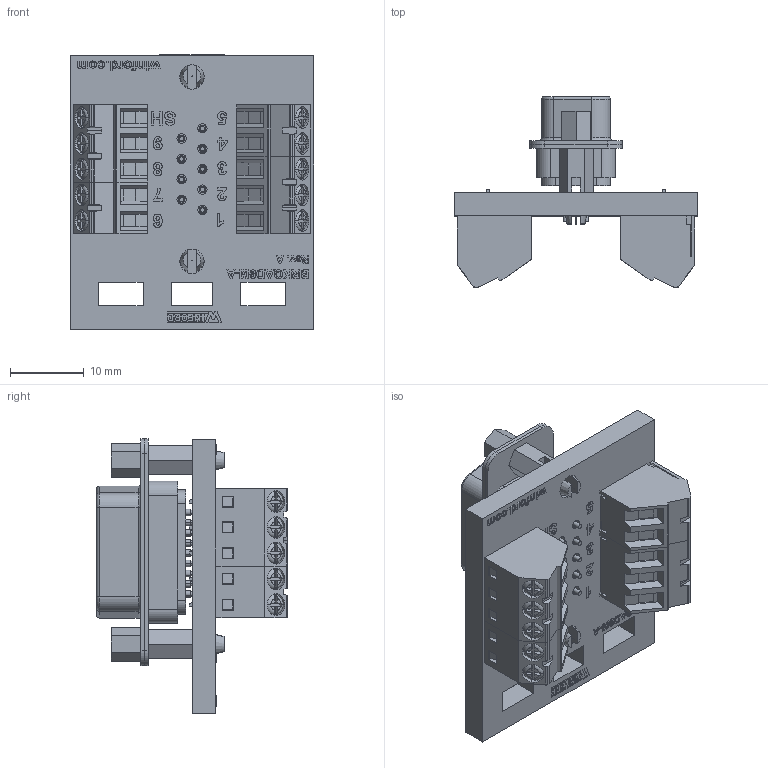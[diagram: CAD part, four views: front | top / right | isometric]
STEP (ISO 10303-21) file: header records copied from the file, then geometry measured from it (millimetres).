
FILE_DESCRIPTION (( 'STEP AP214' ), '1' );
FILE_NAME ('brkqad9m-a_rev_a.step', '2022-02-02T16:15:06', ( '' ), ( '' ), 'SwSTEP 2.0', 'SolidWorks 2018', '' );
FILE_SCHEMA (( 'AUTOMOTIVE_DESIGN' ));
Length unit declared in the file: inch
Products named in the file (5): two_position_angled_green_screw_terminal; BRKQAD9M_PCB; three_position_angled_green_screw_terminal; Straight Male Connector; brkqad9m-a_rev_a
Assembly tree (6 placements, depth 2):
  brkqad9m-a_rev_a
    BRKQAD9M_PCB
    Straight Male Connector
    three_position_angled_green_screw_terminal  x2
    two_position_angled_green_screw_terminal  x2
Bounding box: 33.02 x 25.9 x 37.28 mm (x, y, z)
Volume: 6254.5 mm3; surface area: 9335.5 mm2
Topology: 5 solids, 36 shells, 2959 faces, 7913 edges, 5230 vertices
Faces by surface type: plane 2147, bspline 414, cylinder 292, torus 70, cone 36
Entity records: 127848 total; most frequent: CARTESIAN_POINT 38514, ORIENTED_EDGE 12942, DIRECTION 10325, EDGE_CURVE 6523, VECTOR 5027, LINE 5027, VERTEX_POINT 4331, EDGE_LOOP 2682
